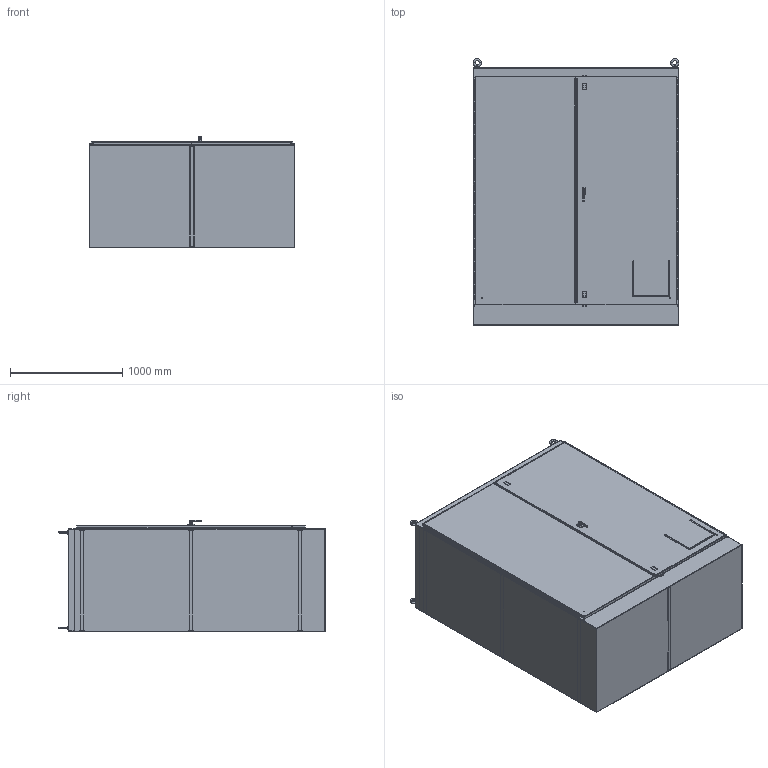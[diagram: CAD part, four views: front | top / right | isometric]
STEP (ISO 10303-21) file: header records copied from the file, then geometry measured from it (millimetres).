
FILE_DESCRIPTION (( 'STEP AP203' ), '1' );
FILE_NAME ('a907236fsd.STEP', '2011-06-24T13:12:11', ( 'Hoffman User' ), ( 'Hoffman Enclosures' ), 'SwSTEP 2.0', 'SolidWorks 2010', '' );
FILE_SCHEMA (( 'CONFIG_CONTROL_DESIGN' ));
Products named in the file (42): a907236fsd; 89058285; 89058290; 11358483; 89058287; 11358541; 89058288; 11358553; 89058289; 11358473; 10237006_10237006; 11258877_11258877; 89058286; 87927492; 11158113_11158113; 87932883; 26108002; 99415273_Hex Nut; 26168003; 11358511; 89058292; 11158071_Left Door Half Shear; 11358504; 11358490; 11158071_Right Door Half Shear; 27301001; 99404177_Config-Drawing; 24110001; 11158094; 26120009; 26384002; 26123007_26123007 ; 22108006; 22101005; 99401515_Open; 26274020_26274020; 26273020_26273020; 30101003; 27115001; 22318002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
Assembly tree (70 placements, depth 4):
  a907236fsd
    26123007_26123007 
    26384002
    23418001
    11158094  x2
    26120009
    27115004  x2
    26274020_26274020  x2
      22318002
      27115001
      30101003
      26273020_26273020
    11358504
      24110001  x2
      27301001  x2
      11358490
      99404177_Config-Drawing
      11158071_Right Door Half Shear
    22101005
    99401515_Open
    89058285
      26108002  x4
      87932883  x4
      99415273_Hex Nut  x4
      89058290
        10237006_10237006
        11358483
        99404177_Config-Drawing  x2
      89058289
        11358473
        10237006_10237006
        11258877_11258877  x2
      89058286
      26168003  x2
      87927492  x2
      11158113_11158113  x2
      89058287
        11358541
        10237006_10237006  x3
      89058288
        10237006_10237006  x3
        11358553
    22108006
    11358511
      99404177_Config-Drawing
      89058292
      11158071_Left Door Half Shear
Bounding box: 1830.37 x 2370.38 x 990.16 mm (x, y, z)
Volume: 45291145.4 mm3; surface area: 36431854.6 mm2
Topology: 67 solids, 67 shells, 8334 faces, 22200 edges, 14312 vertices
Faces by surface type: plane 3770, bspline 2907, cylinder 1207, cone 284, torus 152, sphere 14
Entity records: 274873 total; most frequent: CARTESIAN_POINT 135694, ORIENTED_EDGE 31856, DIRECTION 20517, EDGE_CURVE 15928, VERTEX_POINT 10421, LINE 9671, VECTOR 9671, EDGE_LOOP 6197
